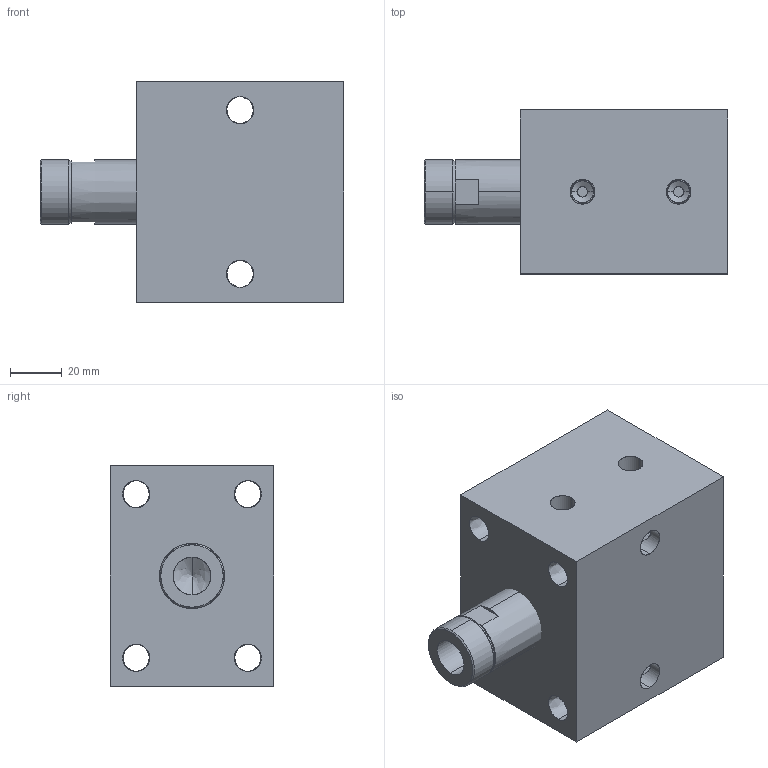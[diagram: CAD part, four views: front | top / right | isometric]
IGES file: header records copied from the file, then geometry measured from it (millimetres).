
Start section: SolidWorks IGES file using analytic representation for surfaces
Global section: file name: C:\Documents and Settings\rajib\Desktop\Rajib\BLOCK CYLINDER HYDRAULIC\0401-0406\IGS 0401-0406\0402.IGS; native system: SolidWorks 2007; preprocessor: SolidWorks 2007; author: rajib; date: 110121.102625; units: millimetre
Bounding box: 117 x 63 x 85 mm (x, y, z)
Surface area: 56560.6 mm2 (no closed solid volume)
Topology: 0 solids, 0 shells, 80 faces, 1752 edges, 1750 vertices
Faces by surface type: revolution 58, bspline 22
